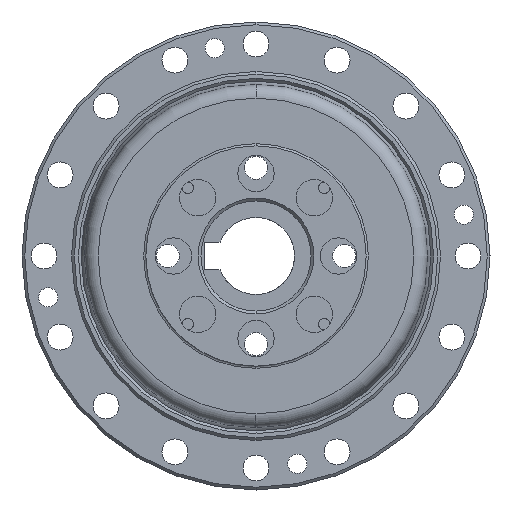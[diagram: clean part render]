
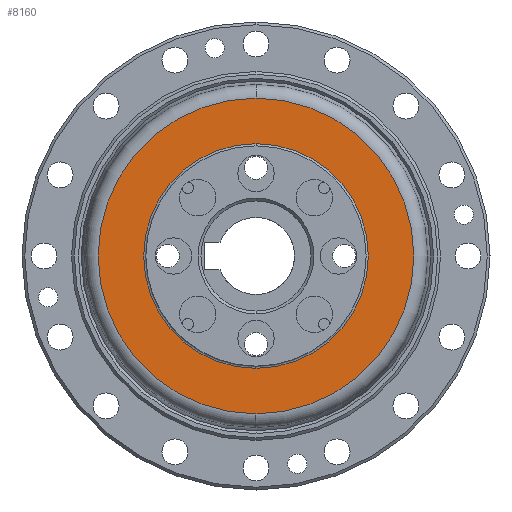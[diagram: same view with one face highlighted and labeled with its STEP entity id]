
A CAD part, left-side view. The second image highlights one B-rep face of the part: STEP entity #8160.
In plain terms, the highlighted planar face has unit normal (-1, 0, 0).
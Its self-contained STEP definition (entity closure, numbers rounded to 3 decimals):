
#831 = ORIENTED_EDGE ( 'NONE', *, *, #7846, .F. ) ;
#1647 = DIRECTION ( 'NONE',  ( -1., 0., 0. ) ) ;
#1881 = DIRECTION ( 'NONE',  ( 1., 0., 0. ) ) ;
#2048 = CARTESIAN_POINT ( 'NONE',  ( 20.912, 0., 0. ) ) ;
#2109 = CIRCLE ( 'NONE', #14092, 20.4 ) ;
#2379 = DIRECTION ( 'NONE',  ( -1., 0., 0. ) ) ;
#2846 = VERTEX_POINT ( 'NONE', #4119 ) ;
#3138 = DIRECTION ( 'NONE',  ( 0., 0., 1. ) ) ;
#3301 = AXIS2_PLACEMENT_3D ( 'NONE', #7354, #1881, #9572 ) ;
#4119 = CARTESIAN_POINT ( 'NONE',  ( 20.912, 0., 20.4 ) ) ;
#4180 = CIRCLE ( 'NONE', #7546, 28.666 ) ;
#4216 = CARTESIAN_POINT ( 'NONE',  ( 20.912, 0., 0. ) ) ;
#5324 = DIRECTION ( 'NONE',  ( 0., 0., 1. ) ) ;
#5642 = ORIENTED_EDGE ( 'NONE', *, *, #7129, .T. ) ;
#6179 = VERTEX_POINT ( 'NONE', #13678 ) ;
#6456 = CIRCLE ( 'NONE', #9120, 28.666 ) ;
#6717 = VERTEX_POINT ( 'NONE', #12429 ) ;
#7129 = EDGE_CURVE ( 'NONE', #6717, #6179, #6456, .T. ) ;
#7133 = FACE_OUTER_BOUND ( 'NONE', #13165, .T. ) ;
#7306 = PLANE ( 'NONE',  #3301 ) ;
#7354 = CARTESIAN_POINT ( 'NONE',  ( 20.912, 20.4, 0. ) ) ;
#7546 = AXIS2_PLACEMENT_3D ( 'NONE', #8228, #1647, #9321 ) ;
#7846 = EDGE_CURVE ( 'NONE', #2846, #10758, #8349, .T. ) ;
#8160 = ADVANCED_FACE ( 'NONE', ( #10069, #7133 ), #7306, .F. ) ;
#8228 = CARTESIAN_POINT ( 'NONE',  ( 20.912, 0., 0. ) ) ;
#8274 = AXIS2_PLACEMENT_3D ( 'NONE', #8961, #2379, #10071 ) ;
#8349 = CIRCLE ( 'NONE', #8274, 20.4 ) ;
#8364 = EDGE_LOOP ( 'NONE', ( #831, #8731 ) ) ;
#8731 = ORIENTED_EDGE ( 'NONE', *, *, #13284, .F. ) ;
#8961 = CARTESIAN_POINT ( 'NONE',  ( 20.912, 0., 0. ) ) ;
#9120 = AXIS2_PLACEMENT_3D ( 'NONE', #2048, #9737, #3138 ) ;
#9321 = DIRECTION ( 'NONE',  ( 0., 0., 1. ) ) ;
#9572 = DIRECTION ( 'NONE',  ( 0., 0., -1. ) ) ;
#9698 = CARTESIAN_POINT ( 'NONE',  ( 20.912, 0., -20.4 ) ) ;
#9737 = DIRECTION ( 'NONE',  ( -1., 0., 0. ) ) ;
#10069 = FACE_BOUND ( 'NONE', #8364, .T. ) ;
#10071 = DIRECTION ( 'NONE',  ( 0., 0., 1. ) ) ;
#10758 = VERTEX_POINT ( 'NONE', #9698 ) ;
#11682 = EDGE_CURVE ( 'NONE', #6179, #6717, #4180, .T. ) ;
#11700 = ORIENTED_EDGE ( 'NONE', *, *, #11682, .T. ) ;
#11950 = DIRECTION ( 'NONE',  ( -1., 0., 0. ) ) ;
#12429 = CARTESIAN_POINT ( 'NONE',  ( 20.912, 0., 28.666 ) ) ;
#13165 = EDGE_LOOP ( 'NONE', ( #5642, #11700 ) ) ;
#13284 = EDGE_CURVE ( 'NONE', #10758, #2846, #2109, .T. ) ;
#13678 = CARTESIAN_POINT ( 'NONE',  ( 20.912, 0., -28.666 ) ) ;
#14092 = AXIS2_PLACEMENT_3D ( 'NONE', #4216, #11950, #5324 ) ;
